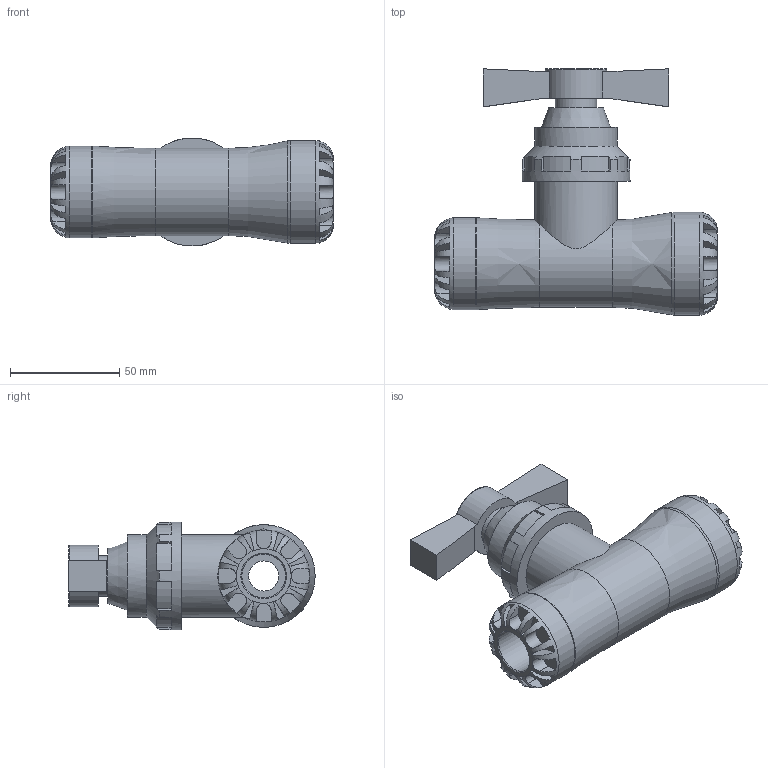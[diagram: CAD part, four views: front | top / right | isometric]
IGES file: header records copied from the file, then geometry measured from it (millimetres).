
Global section: file name: 34100025020.ipt; native system: Autodesk Inventor 2015; preprocessor: unknown; author: KIM; date: 20170212.120059; units: millimetre
Bounding box: 129 x 112.5 x 49.33 mm (x, y, z)
Volume: 211920 mm3; surface area: 43068.1 mm2
Topology: 1 solids, 1 shells, 205 faces, 546 edges, 349 vertices
Faces by surface type: plane 143, cylinder 32, revolution 28, cone 2
Full cylindrical faces by diameter (mm): 18.8 x1, 28.2 x1, 37.6 x2, 42 x1, 47 x1, 49.35 x1
